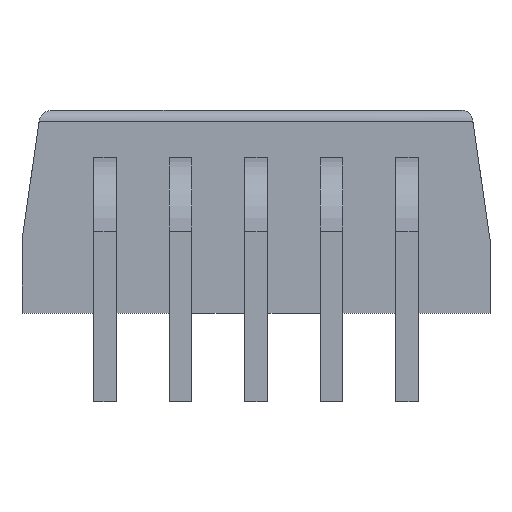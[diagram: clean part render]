
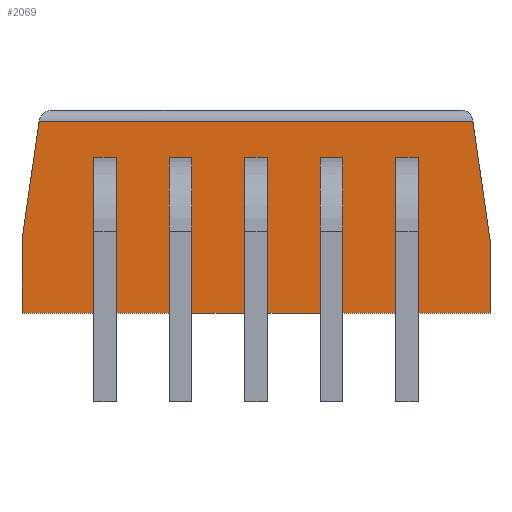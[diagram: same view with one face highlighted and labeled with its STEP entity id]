
A CAD part, left-side view. The second image highlights one B-rep face of the part: STEP entity #2069.
In plain terms, the highlighted planar face has unit normal (-1, 0, 0).
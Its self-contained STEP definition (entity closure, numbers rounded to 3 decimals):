
#1992 = CARTESIAN_POINT ( 'NONE',  ( 6.173, 1.871, 1.65 ) ) ;
#1993 = VERTEX_POINT ( 'NONE', #1992 ) ;
#1994 = CARTESIAN_POINT ( 'NONE',  ( 6.173, 1.871, 0. ) ) ;
#1995 = VERTEX_POINT ( 'NONE', #1994 ) ;
#1996 = CARTESIAN_POINT ( 'NONE',  ( 6.173, 1.871, 4.572 ) ) ;
#1997 = DIRECTION ( 'NONE',  ( 0., 0., -1. ) ) ;
#1998 = VECTOR ( 'NONE', #1997, 1000. ) ;
#1999 = LINE ( 'NONE', #1996, #1998 ) ;
#2000 = EDGE_CURVE ( 'NONE', #1993, #1995, #1999, .T. ) ;
#2023 = CARTESIAN_POINT ( 'NONE',  ( 6.173, -8.671, 1.65 ) ) ;
#2024 = VERTEX_POINT ( 'NONE', #2023 ) ;
#2025 = CARTESIAN_POINT ( 'NONE',  ( 6.173, -8.284, 4.322 ) ) ;
#2026 = VERTEX_POINT ( 'NONE', #2025 ) ;
#2027 = CARTESIAN_POINT ( 'NONE',  ( 6.173, -8.249, 4.572 ) ) ;
#2028 = DIRECTION ( 'NONE',  ( 0., 0.139, 0.99 ) ) ;
#2029 = VECTOR ( 'NONE', #2028, 1000. ) ;
#2030 = LINE ( 'NONE', #2027, #2029 ) ;
#2031 = EDGE_CURVE ( 'NONE', #2024, #2026, #2030, .T. ) ;
#2032 = ORIENTED_EDGE ( 'NONE', *, *, #2031, .T. ) ;
#2033 = CARTESIAN_POINT ( 'NONE',  ( 6.173, 1.484, 4.322 ) ) ;
#2034 = VERTEX_POINT ( 'NONE', #2033 ) ;
#2035 = CARTESIAN_POINT ( 'NONE',  ( 6.173, 1.449, 4.322 ) ) ;
#2036 = DIRECTION ( 'NONE',  ( 0., 1., 0. ) ) ;
#2037 = VECTOR ( 'NONE', #2036, 1000. ) ;
#2038 = LINE ( 'NONE', #2035, #2037 ) ;
#2039 = EDGE_CURVE ( 'NONE', #2026, #2034, #2038, .T. ) ;
#2040 = ORIENTED_EDGE ( 'NONE', *, *, #2039, .T. ) ;
#2041 = CARTESIAN_POINT ( 'NONE',  ( 6.173, 1.449, 4.572 ) ) ;
#2042 = DIRECTION ( 'NONE',  ( 0., 0.139, -0.99 ) ) ;
#2043 = VECTOR ( 'NONE', #2042, 1000. ) ;
#2044 = LINE ( 'NONE', #2041, #2043 ) ;
#2045 = EDGE_CURVE ( 'NONE', #2034, #1993, #2044, .T. ) ;
#2046 = ORIENTED_EDGE ( 'NONE', *, *, #2045, .T. ) ;
#2047 = ORIENTED_EDGE ( 'NONE', *, *, #2000, .T. ) ;
#2048 = CARTESIAN_POINT ( 'NONE',  ( 6.173, -8.671, 0. ) ) ;
#2049 = VERTEX_POINT ( 'NONE', #2048 ) ;
#2050 = CARTESIAN_POINT ( 'NONE',  ( 6.173, 1.871, 0. ) ) ;
#2051 = DIRECTION ( 'NONE',  ( 0., -1., 0. ) ) ;
#2052 = VECTOR ( 'NONE', #2051, 1000. ) ;
#2053 = LINE ( 'NONE', #2050, #2052 ) ;
#2054 = EDGE_CURVE ( 'NONE', #1995, #2049, #2053, .T. ) ;
#2055 = ORIENTED_EDGE ( 'NONE', *, *, #2054, .T. ) ;
#2056 = CARTESIAN_POINT ( 'NONE',  ( 6.173, -8.671, 4.572 ) ) ;
#2057 = DIRECTION ( 'NONE',  ( 0., 0., -1. ) ) ;
#2058 = VECTOR ( 'NONE', #2057, 1000. ) ;
#2059 = LINE ( 'NONE', #2056, #2058 ) ;
#2060 = EDGE_CURVE ( 'NONE', #2024, #2049, #2059, .T. ) ;
#2061 = ORIENTED_EDGE ( 'NONE', *, *, #2060, .F. ) ;
#2062 = EDGE_LOOP ( 'NONE', ( #2032, #2040, #2046, #2047, #2055, #2061 ) ) ;
#2063 = FACE_OUTER_BOUND ( 'NONE', #2062, .T. ) ;
#2064 = CARTESIAN_POINT ( 'NONE',  ( 6.173, 1.871, 4.572 ) ) ;
#2065 = DIRECTION ( 'NONE',  ( 1., 0., 0. ) ) ;
#2066 = DIRECTION ( 'NONE',  ( 0., 1., 0. ) ) ;
#2067 = AXIS2_PLACEMENT_3D ( 'NONE', #2064, #2065, #2066 ) ;
#2068 = PLANE ( 'NONE', #2067 ) ;
#2069 = ADVANCED_FACE ( 'NONE', ( #2063 ), #2068, .F. ) ;
